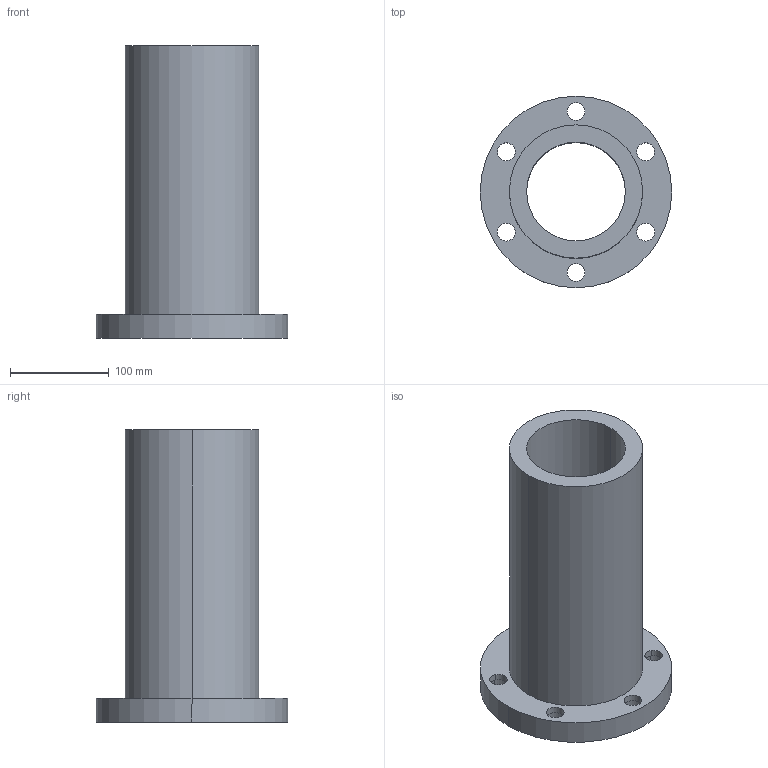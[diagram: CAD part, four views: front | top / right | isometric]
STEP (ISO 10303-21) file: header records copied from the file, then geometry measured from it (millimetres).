
FILE_DESCRIPTION((''),'2;1');
FILE_NAME('100-20T4','2008-04-05T',('cmliu'),(''),'PRO/ENGINEER BY PARAMETRIC TECHNOLOGY CORPORATION, 2004110','PRO/ENGINEER BY PARAMETRIC TECHNOLOGY CORPORATION, 2004110','');
FILE_SCHEMA(('CONFIG_CONTROL_DESIGN'));
Length unit declared in the file: millimetre
Products named in the file (1): 100-20T4
Bounding box: 194 x 194 x 296 mm (x, y, z)
Volume: 2212347.2 mm3; surface area: 274116.5 mm2
Topology: 1 solids, 1 shells, 39 faces, 98 edges, 68 vertices
Faces by surface type: cylinder 30, plane 9
Entity records: 1290 total; most frequent: DIRECTION 244, CARTESIAN_POINT 205, ORIENTED_EDGE 196, AXIS2_PLACEMENT_3D 107, EDGE_CURVE 98, VERTEX_POINT 68, CIRCLE 68, EDGE_LOOP 60
